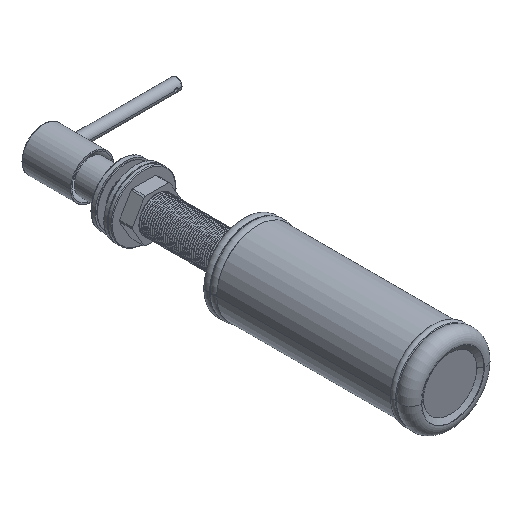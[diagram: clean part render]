
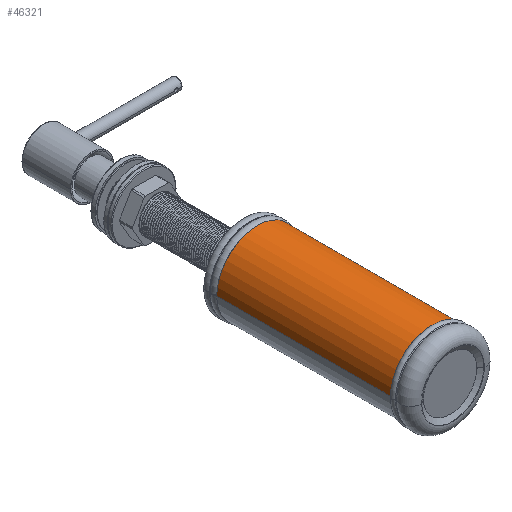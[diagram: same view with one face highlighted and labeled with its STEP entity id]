
A CAD part, isometric view. The second image highlights one B-rep face of the part: STEP entity #46321.
In plain terms, the highlighted cylindrical face has radius 28.25 mm (diameter 56.5 mm), a partial arc.
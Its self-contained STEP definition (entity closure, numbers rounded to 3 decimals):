
#44525=CARTESIAN_POINT('',(-133.8,0.,0.));
#44526=DIRECTION('',(1.,0.,0.));
#44527=DIRECTION('',(0.,-1.,0.));
#44528=AXIS2_PLACEMENT_3D('',#44525,#44526,#44527);
#44545=DIRECTION('',(-1.,0.,0.));
#44546=VECTOR('',#44545,120.8);
#44547=CARTESIAN_POINT('',(-13.,28.25,0.));
#44548=LINE('',#44547,#44546);
#44549=DIRECTION('',(-1.,0.,0.));
#44550=VECTOR('',#44549,120.8);
#44551=CARTESIAN_POINT('',(-13.,-28.25,0.));
#44552=LINE('',#44551,#44550);
#44583=CARTESIAN_POINT('',(-13.,0.,0.));
#44584=DIRECTION('',(-1.,0.,0.));
#44585=DIRECTION('',(0.,1.,0.));
#44586=AXIS2_PLACEMENT_3D('',#44583,#44584,#44585);
#44852=CARTESIAN_POINT('',(-133.8,-28.25,0.));
#44853=VERTEX_POINT('',#44852);
#44856=CARTESIAN_POINT('',(-133.8,28.25,0.));
#44857=VERTEX_POINT('',#44856);
#44858=CARTESIAN_POINT('',(-13.,-28.25,0.));
#44859=VERTEX_POINT('',#44858);
#44860=CARTESIAN_POINT('',(-13.,28.25,0.));
#44861=VERTEX_POINT('',#44860);
#46307=CARTESIAN_POINT('',(0.,0.,0.));
#46308=DIRECTION('',(1.,0.,0.));
#46309=DIRECTION('',(0.,-1.,0.));
#46310=AXIS2_PLACEMENT_3D('',#46307,#46308,#46309);
#46311=CYLINDRICAL_SURFACE('',#46310,28.25);
#46313=ORIENTED_EDGE('',*,*,#46312,.F.);
#46315=ORIENTED_EDGE('',*,*,#46314,.F.);
#46317=ORIENTED_EDGE('',*,*,#46316,.T.);
#46318=ORIENTED_EDGE('',*,*,#46299,.F.);
#46319=EDGE_LOOP('',(#46313,#46315,#46317,#46318));
#46320=FACE_OUTER_BOUND('',#46319,.F.);
#44529=CIRCLE('',#44528,28.25);
#44587=CIRCLE('',#44586,28.25);
#46299=EDGE_CURVE('',#44853,#44857,#44529,.T.);
#46312=EDGE_CURVE('',#44859,#44853,#44552,.T.);
#46314=EDGE_CURVE('',#44861,#44859,#44587,.T.);
#46316=EDGE_CURVE('',#44861,#44857,#44548,.T.);
#46321=ADVANCED_FACE('',(#46320),#46311,.T.);
